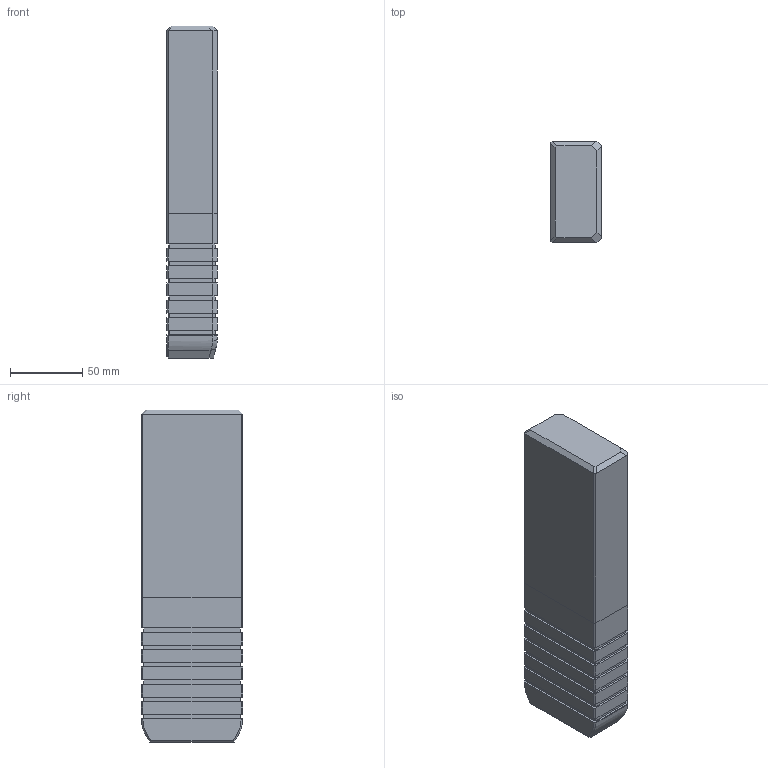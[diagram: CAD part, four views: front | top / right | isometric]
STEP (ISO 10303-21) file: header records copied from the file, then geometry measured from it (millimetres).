
FILE_DESCRIPTION((''),'2;1');
FILE_NAME('','2010-08-30T13:16:22+09:00',('misumi'),(''),'M/STEP i/f 1R2-14','CADmeister v5.1','');
FILE_SCHEMA(('AUTOMOTIVE_DESIGN'));
Length unit declared in the file: millimetre
Products named in the file (1): GWZ70-230
Bounding box: 35 x 70 x 230 mm (x, y, z)
Volume: 551774.4 mm3; surface area: 54503.3 mm2
Topology: 1 solids, 1 shells, 153 faces, 395 edges, 256 vertices
Faces by surface type: plane 142, bspline 6, cylinder 3, cone 2
Entity records: 4911 total; most frequent: CARTESIAN_POINT 1147, ORIENTED_EDGE 790, DIRECTION 677, EDGE_CURVE 395, LINE 373, VECTOR 373, VERTEX_POINT 256, EDGE_LOOP 165
